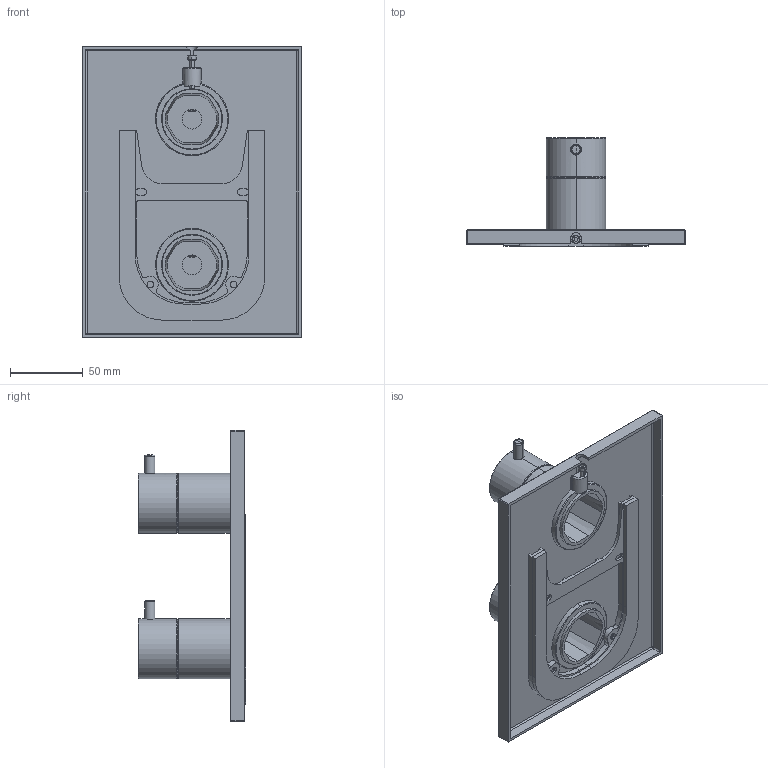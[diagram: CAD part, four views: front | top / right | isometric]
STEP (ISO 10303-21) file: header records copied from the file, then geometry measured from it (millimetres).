
FILE_DESCRIPTION((''),'2;1');
FILE_NAME('76705--00_ASM','2022-05-11T07:34:34',('lalo2'),(''),'CREO PARAMETRIC BY PTC INC, 2018190','CREO PARAMETRIC BY PTC INC, 2018190','');
FILE_SCHEMA(('CONFIG_CONTROL_DESIGN'));
Products named in the file (24): 46007--; 4497600; 4606500; 4390700; 46011--_ASM; 44978--; 4498100; 46017--_ASM; 44979--; 4600600; 44987--; 4498800; 44990--_ASM; 4498000; 46021--_ASM; 46022--; 1904300; 44986--; 44989--_ASM; 4612600; 4497500; 4602300_ASM; 76705--00_SUB01_ASM; 76705--00_ASM
Assembly tree (28 placements, depth 4):
  76705--00_ASM
    76705--00_SUB01_ASM
      46011--_ASM
        46007--
        4497600  x2
        4606500
        4390700  x2
      46017--_ASM
        44978--
        4498100
      44990--_ASM
        44979--
        4600600
        44987--
        4498800
      46021--_ASM
        44978--
        4498000
      44989--_ASM
        46022--
        4600600
        1904300
        44986--
        4498800
      4602300_ASM
        4612600
        4497500
Bounding box: 150 x 74.1 x 200 mm (x, y, z)
Volume: 157933.4 mm3; surface area: 154297.1 mm2
Topology: 21 solids, 22 shells, 2369 faces, 6239 edges, 3973 vertices
Faces by surface type: plane 1100, cylinder 654, bspline 199, torus 186, cone 111, sphere 62, extrusion 53, revolution 4
Entity records: 77791 total; most frequent: CARTESIAN_POINT 28927, ORIENTED_EDGE 10728, DIRECTION 9218, EDGE_CURVE 5366, VERTEX_POINT 3427, AXIS2_PLACEMENT_3D 3168, VECTOR 2878, LINE 2825
